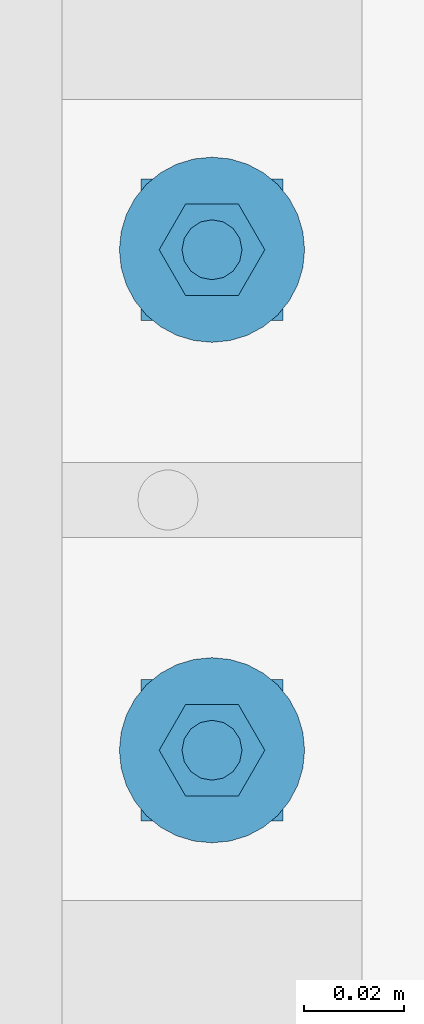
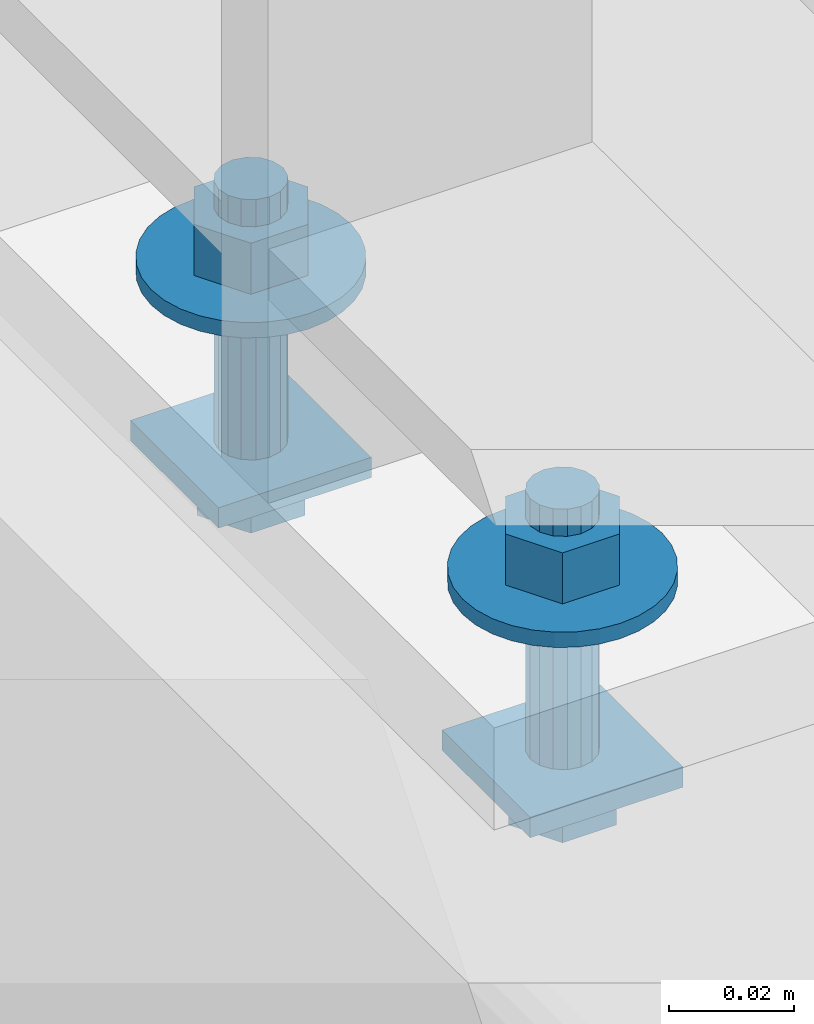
# One storey, part 345 of 821: 1 mechanical fastener.
"""IFC2X3 building model written with IfcOpenShell, lengths in millimetres."""

from ifc_helpers import new_model, entity, si_unit, converted_unit, origin_with_axes, place, context, project, spatial, faceted_brep, element, save


model = new_model("IFC2X3")

# Units and contexts
model_context = context("Model", 3, precision=1e-09, world=origin_with_axes())
ifc_project = project(units=[si_unit("LENGTHUNIT", "METRE", prefix="MILLI"), si_unit("AREAUNIT", "SQUARE_METRE"), si_unit("VOLUMEUNIT", "CUBIC_METRE"), converted_unit("PLANEANGLEUNIT", "DEGREE", entity("IfcPlaneAngleMeasure", 0.01745329), si_unit("PLANEANGLEUNIT", "RADIAN"), dimensions=[0, 0, 0, 0, 0, 0, 0])], contexts=[model_context])

# Site, building, storey
site_placement = place(None, origin_with_axes())
site = spatial("IfcSite", under=ifc_project, at=site_placement, Name="Cnopf'sche Kinderklinik", CompositionType="ELEMENT")
building_placement = place(site_placement, origin_with_axes())
building = spatial("IfcBuilding", under=site, at=building_placement, Name="Struktur 1", CompositionType="ELEMENT")
storey_placement = place(building_placement, origin_with_axes())
storey = spatial("IfcBuildingStorey", under=building, at=storey_placement, Name="Default Storey", CompositionType="ELEMENT", Elevation=0.0)

# Mechanical fastener
mechanical_fastener_placement = place(None, origin_with_axes())
element("IfcMechanicalFastener", 1, at=mechanical_fastener_placement, inside=storey, ObjectType="Bolt#503", NominalDiameter=12.0, NominalLength=55.0, context=model_context, shape_type="Brep", body=[
    faceted_brep([(4670.855538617, 6434.628857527, 17817.317195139), (4670.855538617, 6434.628857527, 17821.317195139), (4670.855538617, 6406.34458628, 17821.317195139), (4670.855538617, 6406.34458628, 17817.317195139), (4642.571267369, 6406.34458628, 17821.317195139), (4642.571267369, 6406.34458628, 17817.317195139), (4642.571267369, 6434.628857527, 17821.317195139), (4642.571267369, 6434.628857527, 17817.317195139)], [[[0, 1, 2, 3]], [[3, 2, 4, 5]], [[5, 4, 6, 7]], [[7, 6, 1, 0]], [[3, 5, 7, 0]], [[2, 1, 6, 4]]]),
    faceted_brep([(4670.855538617, 6334.628857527, 17817.317195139), (4670.855538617, 6334.628857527, 17821.317195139), (4670.855538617, 6306.34458628, 17821.317195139), (4670.855538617, 6306.34458628, 17817.317195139), (4642.571267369, 6306.34458628, 17821.317195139), (4642.571267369, 6306.34458628, 17817.317195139), (4642.571267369, 6334.628857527, 17821.317195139), (4642.571267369, 6334.628857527, 17817.317195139)], [[[0, 1, 2, 3]], [[3, 2, 4, 5]], [[5, 4, 6, 7]], [[7, 6, 1, 0]], [[3, 5, 7, 0]], [[2, 1, 6, 4]]]),
    faceted_brep([(4661.720902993, 6429.159966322, 17809.817195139), (4661.720902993, 6429.159966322, 17817.317195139), (4666.728402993, 6420.486721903, 17817.317195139), (4666.728402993, 6420.486721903, 17809.817195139), (4661.720902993, 6411.813477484, 17817.317195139), (4661.720902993, 6411.813477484, 17809.817195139), (4651.705902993, 6411.813477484, 17817.317195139), (4651.705902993, 6411.813477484, 17809.817195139), (4646.698402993, 6420.486721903, 17817.317195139), (4646.698402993, 6420.486721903, 17809.817195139), (4651.705902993, 6429.159966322, 17817.317195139), (4651.705902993, 6429.159966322, 17809.817195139)], [[[0, 1, 2, 3]], [[3, 2, 4, 5]], [[5, 4, 6, 7]], [[7, 6, 8, 9]], [[9, 8, 10, 11]], [[11, 10, 1, 0]], [[3, 5, 7, 9, 11, 0]], [[2, 1, 10, 8, 6, 4]]]),
    faceted_brep([(4661.720902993, 6329.159966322, 17809.817195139), (4661.720902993, 6329.159966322, 17817.317195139), (4666.728402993, 6320.486721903, 17817.317195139), (4666.728402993, 6320.486721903, 17809.817195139), (4661.720902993, 6311.813477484, 17817.317195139), (4661.720902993, 6311.813477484, 17809.817195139), (4651.705902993, 6311.813477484, 17817.317195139), (4651.705902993, 6311.813477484, 17809.817195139), (4646.698402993, 6320.486721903, 17817.317195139), (4646.698402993, 6320.486721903, 17809.817195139), (4651.705902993, 6329.159966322, 17817.317195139), (4651.705902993, 6329.159966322, 17809.817195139)], [[[0, 1, 2, 3]], [[3, 2, 4, 5]], [[5, 4, 6, 7]], [[7, 6, 8, 9]], [[9, 8, 10, 11]], [[11, 10, 1, 0]], [[3, 5, 7, 9, 11, 0]], [[2, 1, 10, 8, 6, 4]]]),
    faceted_brep([(4656.713402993, 6414.486721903, 17854.0), (4656.713402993, 6414.486721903, 17821.317195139), (4659.009503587, 6414.943444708, 17821.317195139), (4659.009503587, 6414.943444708, 17854.0), (4660.95604368, 6416.244081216, 17821.317195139), (4660.95604368, 6416.244081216, 17854.0), (4662.256680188, 6418.190621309, 17821.317195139), (4662.256680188, 6418.190621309, 17854.0), (4662.713402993, 6420.486721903, 17821.317195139), (4662.713402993, 6420.486721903, 17854.0), (4662.256680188, 6422.782822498, 17821.317195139), (4662.256680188, 6422.782822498, 17854.0), (4660.95604368, 6424.729362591, 17821.317195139), (4660.95604368, 6424.729362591, 17854.0), (4659.009503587, 6426.029999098, 17821.317195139), (4659.009503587, 6426.029999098, 17854.0), (4656.713402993, 6426.486721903, 17821.317195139), (4656.713402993, 6426.486721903, 17854.0), (4654.417302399, 6426.029999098, 17821.317195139), (4654.417302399, 6426.029999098, 17854.0), (4652.470762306, 6424.729362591, 17821.317195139), (4652.470762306, 6424.729362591, 17854.0), (4651.170125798, 6422.782822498, 17821.317195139), (4651.170125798, 6422.782822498, 17854.0), (4650.713402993, 6420.486721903, 17821.317195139), (4650.713402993, 6420.486721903, 17854.0), (4651.170125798, 6418.190621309, 17821.317195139), (4651.170125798, 6418.190621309, 17854.0), (4652.470762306, 6416.244081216, 17821.317195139), (4652.470762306, 6416.244081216, 17854.0), (4654.417302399, 6414.943444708, 17821.317195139), (4654.417302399, 6414.943444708, 17854.0)], [[[0, 1, 2, 3]], [[3, 2, 4, 5]], [[5, 4, 6, 7]], [[7, 6, 8, 9]], [[9, 8, 10, 11]], [[11, 10, 12, 13]], [[13, 12, 14, 15]], [[15, 14, 16, 17]], [[17, 16, 18, 19]], [[19, 18, 20, 21]], [[21, 20, 22, 23]], [[23, 22, 24, 25]], [[25, 24, 26, 27]], [[27, 26, 28, 29]], [[29, 28, 30, 31]], [[31, 30, 1, 0]], [[2, 1, 30, 28, 26, 24, 22, 20, 18, 16, 14, 12, 10, 8, 6, 4]], [[31, 0, 3, 5, 7, 9, 11, 13, 15, 17, 19, 21, 23, 25, 27, 29]]]),
    faceted_brep([(4656.713402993, 6314.486721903, 17854.0), (4656.713402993, 6314.486721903, 17821.317195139), (4659.009503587, 6314.943444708, 17821.317195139), (4659.009503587, 6314.943444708, 17854.0), (4660.95604368, 6316.244081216, 17821.317195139), (4660.95604368, 6316.244081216, 17854.0), (4662.256680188, 6318.190621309, 17821.317195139), (4662.256680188, 6318.190621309, 17854.0), (4662.713402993, 6320.486721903, 17821.317195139), (4662.713402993, 6320.486721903, 17854.0), (4662.256680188, 6322.782822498, 17821.317195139), (4662.256680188, 6322.782822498, 17854.0), (4660.95604368, 6324.729362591, 17821.317195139), (4660.95604368, 6324.729362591, 17854.0), (4659.009503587, 6326.029999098, 17821.317195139), (4659.009503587, 6326.029999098, 17854.0), (4656.713402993, 6326.486721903, 17821.317195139), (4656.713402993, 6326.486721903, 17854.0), (4654.417302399, 6326.029999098, 17821.317195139), (4654.417302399, 6326.029999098, 17854.0), (4652.470762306, 6324.729362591, 17821.317195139), (4652.470762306, 6324.729362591, 17854.0), (4651.170125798, 6322.782822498, 17821.317195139), (4651.170125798, 6322.782822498, 17854.0), (4650.713402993, 6320.486721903, 17821.317195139), (4650.713402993, 6320.486721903, 17854.0), (4651.170125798, 6318.190621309, 17821.317195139), (4651.170125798, 6318.190621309, 17854.0), (4652.470762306, 6316.244081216, 17821.317195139), (4652.470762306, 6316.244081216, 17854.0), (4654.417302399, 6314.943444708, 17821.317195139), (4654.417302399, 6314.943444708, 17854.0)], [[[0, 1, 2, 3]], [[3, 2, 4, 5]], [[5, 4, 6, 7]], [[7, 6, 8, 9]], [[9, 8, 10, 11]], [[11, 10, 12, 13]], [[13, 12, 14, 15]], [[15, 14, 16, 17]], [[17, 16, 18, 19]], [[19, 18, 20, 21]], [[21, 20, 22, 23]], [[23, 22, 24, 25]], [[25, 24, 26, 27]], [[27, 26, 28, 29]], [[29, 28, 30, 31]], [[31, 30, 1, 0]], [[2, 1, 30, 28, 26, 24, 22, 20, 18, 16, 14, 12, 10, 8, 6, 4]], [[31, 0, 3, 5, 7, 9, 11, 13, 15, 17, 19, 21, 23, 25, 27, 29]]]),
    faceted_brep([(4656.713402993, 6401.986721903, 17857.0), (4656.713402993, 6401.986721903, 17854.0), (4660.32257395, 6402.342194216, 17854.0), (4660.32257395, 6402.342194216, 17857.0), (4663.793046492, 6403.394950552, 17854.0), (4663.793046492, 6403.394950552, 17857.0), (4666.991452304, 6405.104534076, 17854.0), (4666.991452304, 6405.104534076, 17857.0), (4669.794878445, 6407.405246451, 17854.0), (4669.794878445, 6407.405246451, 17857.0), (4672.095590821, 6410.208672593, 17854.0), (4672.095590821, 6410.208672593, 17857.0), (4673.805174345, 6413.407078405, 17854.0), (4673.805174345, 6413.407078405, 17857.0), (4674.857930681, 6416.877550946, 17854.0), (4674.857930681, 6416.877550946, 17857.0), (4675.213402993, 6420.486721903, 17854.0), (4675.213402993, 6420.486721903, 17857.0), (4674.857930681, 6424.095892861, 17854.0), (4674.857930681, 6424.095892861, 17857.0), (4673.805174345, 6427.566365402, 17854.0), (4673.805174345, 6427.566365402, 17857.0), (4672.095590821, 6430.764771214, 17854.0), (4672.095590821, 6430.764771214, 17857.0), (4669.794878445, 6433.568197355, 17854.0), (4669.794878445, 6433.568197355, 17857.0), (4666.991452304, 6435.868909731, 17854.0), (4666.991452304, 6435.868909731, 17857.0), (4663.793046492, 6437.578493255, 17854.0), (4663.793046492, 6437.578493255, 17857.0), (4660.32257395, 6438.631249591, 17854.0), (4660.32257395, 6438.631249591, 17857.0), (4656.713402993, 6438.986721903, 17854.0), (4656.713402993, 6438.986721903, 17857.0), (4653.104232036, 6438.631249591, 17854.0), (4653.104232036, 6438.631249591, 17857.0), (4649.633759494, 6437.578493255, 17854.0), (4649.633759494, 6437.578493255, 17857.0), (4646.435353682, 6435.868909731, 17854.0), (4646.435353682, 6435.868909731, 17857.0), (4643.631927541, 6433.568197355, 17854.0), (4643.631927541, 6433.568197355, 17857.0), (4641.331215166, 6430.764771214, 17854.0), (4641.331215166, 6430.764771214, 17857.0), (4639.621631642, 6427.566365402, 17854.0), (4639.621631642, 6427.566365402, 17857.0), (4638.568875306, 6424.095892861, 17854.0), (4638.568875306, 6424.095892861, 17857.0), (4638.213402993, 6420.486721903, 17854.0), (4638.213402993, 6420.486721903, 17857.0), (4638.568875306, 6416.877550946, 17854.0), (4638.568875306, 6416.877550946, 17857.0), (4639.621631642, 6413.407078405, 17854.0), (4639.621631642, 6413.407078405, 17857.0), (4641.331215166, 6410.208672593, 17854.0), (4641.331215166, 6410.208672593, 17857.0), (4643.631927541, 6407.405246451, 17854.0), (4643.631927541, 6407.405246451, 17857.0), (4646.435353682, 6405.104534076, 17854.0), (4646.435353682, 6405.104534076, 17857.0), (4649.633759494, 6403.394950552, 17854.0), (4649.633759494, 6403.394950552, 17857.0), (4653.104232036, 6402.342194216, 17854.0), (4653.104232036, 6402.342194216, 17857.0)], [[[0, 1, 2, 3]], [[3, 2, 4, 5]], [[5, 4, 6, 7]], [[7, 6, 8, 9]], [[9, 8, 10, 11]], [[11, 10, 12, 13]], [[13, 12, 14, 15]], [[15, 14, 16, 17]], [[17, 16, 18, 19]], [[19, 18, 20, 21]], [[21, 20, 22, 23]], [[23, 22, 24, 25]], [[25, 24, 26, 27]], [[27, 26, 28, 29]], [[29, 28, 30, 31]], [[31, 30, 32, 33]], [[33, 32, 34, 35]], [[35, 34, 36, 37]], [[37, 36, 38, 39]], [[39, 38, 40, 41]], [[41, 40, 42, 43]], [[43, 42, 44, 45]], [[45, 44, 46, 47]], [[47, 46, 48, 49]], [[49, 48, 50, 51]], [[51, 50, 52, 53]], [[53, 52, 54, 55]], [[55, 54, 56, 57]], [[57, 56, 58, 59]], [[59, 58, 60, 61]], [[61, 60, 62, 63]], [[63, 62, 1, 0]], [[2, 1, 62, 60, 58, 56, 54, 52, 50, 48, 46, 44, 42, 40, 38, 36, 34, 32, 30, 28, 26, 24, 22, 20, 18, 16, 14, 12, 10, 8, 6, 4]], [[63, 0, 3, 5, 7, 9, 11, 13, 15, 17, 19, 21, 23, 25, 27, 29, 31, 33, 35, 37, 39, 41, 43, 45, 47, 49, 51, 53, 55, 57, 59, 61]]]),
    faceted_brep([(4656.713402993, 6301.986721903, 17857.0), (4656.713402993, 6301.986721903, 17854.0), (4660.32257395, 6302.342194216, 17854.0), (4660.32257395, 6302.342194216, 17857.0), (4663.793046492, 6303.394950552, 17854.0), (4663.793046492, 6303.394950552, 17857.0), (4666.991452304, 6305.104534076, 17854.0), (4666.991452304, 6305.104534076, 17857.0), (4669.794878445, 6307.405246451, 17854.0), (4669.794878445, 6307.405246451, 17857.0), (4672.095590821, 6310.208672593, 17854.0), (4672.095590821, 6310.208672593, 17857.0), (4673.805174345, 6313.407078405, 17854.0), (4673.805174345, 6313.407078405, 17857.0), (4674.857930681, 6316.877550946, 17854.0), (4674.857930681, 6316.877550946, 17857.0), (4675.213402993, 6320.486721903, 17854.0), (4675.213402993, 6320.486721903, 17857.0), (4674.857930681, 6324.095892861, 17854.0), (4674.857930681, 6324.095892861, 17857.0), (4673.805174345, 6327.566365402, 17854.0), (4673.805174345, 6327.566365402, 17857.0), (4672.095590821, 6330.764771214, 17854.0), (4672.095590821, 6330.764771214, 17857.0), (4669.794878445, 6333.568197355, 17854.0), (4669.794878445, 6333.568197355, 17857.0), (4666.991452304, 6335.868909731, 17854.0), (4666.991452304, 6335.868909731, 17857.0), (4663.793046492, 6337.578493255, 17854.0), (4663.793046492, 6337.578493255, 17857.0), (4660.32257395, 6338.631249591, 17854.0), (4660.32257395, 6338.631249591, 17857.0), (4656.713402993, 6338.986721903, 17854.0), (4656.713402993, 6338.986721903, 17857.0), (4653.104232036, 6338.631249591, 17854.0), (4653.104232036, 6338.631249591, 17857.0), (4649.633759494, 6337.578493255, 17854.0), (4649.633759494, 6337.578493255, 17857.0), (4646.435353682, 6335.868909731, 17854.0), (4646.435353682, 6335.868909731, 17857.0), (4643.631927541, 6333.568197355, 17854.0), (4643.631927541, 6333.568197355, 17857.0), (4641.331215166, 6330.764771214, 17854.0), (4641.331215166, 6330.764771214, 17857.0), (4639.621631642, 6327.566365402, 17854.0), (4639.621631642, 6327.566365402, 17857.0), (4638.568875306, 6324.095892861, 17854.0), (4638.568875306, 6324.095892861, 17857.0), (4638.213402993, 6320.486721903, 17854.0), (4638.213402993, 6320.486721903, 17857.0), (4638.568875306, 6316.877550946, 17854.0), (4638.568875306, 6316.877550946, 17857.0), (4639.621631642, 6313.407078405, 17854.0), (4639.621631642, 6313.407078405, 17857.0), (4641.331215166, 6310.208672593, 17854.0), (4641.331215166, 6310.208672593, 17857.0), (4643.631927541, 6307.405246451, 17854.0), (4643.631927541, 6307.405246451, 17857.0), (4646.435353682, 6305.104534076, 17854.0), (4646.435353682, 6305.104534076, 17857.0), (4649.633759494, 6303.394950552, 17854.0), (4649.633759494, 6303.394950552, 17857.0), (4653.104232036, 6302.342194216, 17854.0), (4653.104232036, 6302.342194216, 17857.0)], [[[0, 1, 2, 3]], [[3, 2, 4, 5]], [[5, 4, 6, 7]], [[7, 6, 8, 9]], [[9, 8, 10, 11]], [[11, 10, 12, 13]], [[13, 12, 14, 15]], [[15, 14, 16, 17]], [[17, 16, 18, 19]], [[19, 18, 20, 21]], [[21, 20, 22, 23]], [[23, 22, 24, 25]], [[25, 24, 26, 27]], [[27, 26, 28, 29]], [[29, 28, 30, 31]], [[31, 30, 32, 33]], [[33, 32, 34, 35]], [[35, 34, 36, 37]], [[37, 36, 38, 39]], [[39, 38, 40, 41]], [[41, 40, 42, 43]], [[43, 42, 44, 45]], [[45, 44, 46, 47]], [[47, 46, 48, 49]], [[49, 48, 50, 51]], [[51, 50, 52, 53]], [[53, 52, 54, 55]], [[55, 54, 56, 57]], [[57, 56, 58, 59]], [[59, 58, 60, 61]], [[61, 60, 62, 63]], [[63, 62, 1, 0]], [[2, 1, 62, 60, 58, 56, 54, 52, 50, 48, 46, 44, 42, 40, 38, 36, 34, 32, 30, 28, 26, 24, 22, 20, 18, 16, 14, 12, 10, 8, 6, 4]], [[63, 0, 3, 5, 7, 9, 11, 13, 15, 17, 19, 21, 23, 25, 27, 29, 31, 33, 35, 37, 39, 41, 43, 45, 47, 49, 51, 53, 55, 57, 59, 61]]]),
    faceted_brep([(4661.988402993, 6429.623289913, 17857.0), (4661.988402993, 6429.623289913, 17867.0), (4667.263402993, 6420.486721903, 17867.0), (4667.263402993, 6420.486721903, 17857.0), (4661.988402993, 6411.350153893, 17867.0), (4661.988402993, 6411.350153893, 17857.0), (4651.438402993, 6411.350153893, 17867.0), (4651.438402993, 6411.350153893, 17857.0), (4646.163402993, 6420.486721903, 17867.0), (4646.163402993, 6420.486721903, 17857.0), (4651.438402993, 6429.623289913, 17867.0), (4651.438402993, 6429.623289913, 17857.0)], [[[0, 1, 2, 3]], [[3, 2, 4, 5]], [[5, 4, 6, 7]], [[7, 6, 8, 9]], [[9, 8, 10, 11]], [[11, 10, 1, 0]], [[3, 5, 7, 9, 11, 0]], [[2, 1, 10, 8, 6, 4]]]),
    faceted_brep([(4661.988402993, 6329.623289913, 17857.0), (4661.988402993, 6329.623289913, 17867.0), (4667.263402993, 6320.486721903, 17867.0), (4667.263402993, 6320.486721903, 17857.0), (4661.988402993, 6311.350153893, 17867.0), (4661.988402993, 6311.350153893, 17857.0), (4651.438402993, 6311.350153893, 17867.0), (4651.438402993, 6311.350153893, 17857.0), (4646.163402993, 6320.486721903, 17867.0), (4646.163402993, 6320.486721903, 17857.0), (4651.438402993, 6329.623289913, 17867.0), (4651.438402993, 6329.623289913, 17857.0)], [[[0, 1, 2, 3]], [[3, 2, 4, 5]], [[5, 4, 6, 7]], [[7, 6, 8, 9]], [[9, 8, 10, 11]], [[11, 10, 1, 0]], [[3, 5, 7, 9, 11, 0]], [[2, 1, 10, 8, 6, 4]]]),
    faceted_brep([(4656.713402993, 6414.486721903, 17872.317195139), (4656.713402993, 6414.486721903, 17867.0), (4659.009503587, 6414.943444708, 17867.0), (4659.009503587, 6414.943444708, 17872.317195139), (4660.95604368, 6416.244081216, 17867.0), (4660.95604368, 6416.244081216, 17872.317195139), (4662.256680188, 6418.190621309, 17867.0), (4662.256680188, 6418.190621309, 17872.317195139), (4662.713402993, 6420.486721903, 17867.0), (4662.713402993, 6420.486721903, 17872.317195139), (4662.256680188, 6422.782822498, 17867.0), (4662.256680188, 6422.782822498, 17872.317195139), (4660.95604368, 6424.729362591, 17867.0), (4660.95604368, 6424.729362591, 17872.317195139), (4659.009503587, 6426.029999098, 17867.0), (4659.009503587, 6426.029999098, 17872.317195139), (4656.713402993, 6426.486721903, 17867.0), (4656.713402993, 6426.486721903, 17872.317195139), (4654.417302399, 6426.029999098, 17867.0), (4654.417302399, 6426.029999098, 17872.317195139), (4652.470762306, 6424.729362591, 17867.0), (4652.470762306, 6424.729362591, 17872.317195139), (4651.170125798, 6422.782822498, 17867.0), (4651.170125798, 6422.782822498, 17872.317195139), (4650.713402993, 6420.486721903, 17867.0), (4650.713402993, 6420.486721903, 17872.317195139), (4651.170125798, 6418.190621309, 17867.0), (4651.170125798, 6418.190621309, 17872.317195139), (4652.470762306, 6416.244081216, 17867.0), (4652.470762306, 6416.244081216, 17872.317195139), (4654.417302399, 6414.943444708, 17867.0), (4654.417302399, 6414.943444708, 17872.317195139)], [[[0, 1, 2, 3]], [[3, 2, 4, 5]], [[5, 4, 6, 7]], [[7, 6, 8, 9]], [[9, 8, 10, 11]], [[11, 10, 12, 13]], [[13, 12, 14, 15]], [[15, 14, 16, 17]], [[17, 16, 18, 19]], [[19, 18, 20, 21]], [[21, 20, 22, 23]], [[23, 22, 24, 25]], [[25, 24, 26, 27]], [[27, 26, 28, 29]], [[29, 28, 30, 31]], [[31, 30, 1, 0]], [[2, 1, 30, 28, 26, 24, 22, 20, 18, 16, 14, 12, 10, 8, 6, 4]], [[31, 0, 3, 5, 7, 9, 11, 13, 15, 17, 19, 21, 23, 25, 27, 29]]]),
    faceted_brep([(4656.713402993, 6314.486721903, 17872.317195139), (4656.713402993, 6314.486721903, 17867.0), (4659.009503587, 6314.943444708, 17867.0), (4659.009503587, 6314.943444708, 17872.317195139), (4660.95604368, 6316.244081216, 17867.0), (4660.95604368, 6316.244081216, 17872.317195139), (4662.256680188, 6318.190621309, 17867.0), (4662.256680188, 6318.190621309, 17872.317195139), (4662.713402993, 6320.486721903, 17867.0), (4662.713402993, 6320.486721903, 17872.317195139), (4662.256680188, 6322.782822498, 17867.0), (4662.256680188, 6322.782822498, 17872.317195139), (4660.95604368, 6324.729362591, 17867.0), (4660.95604368, 6324.729362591, 17872.317195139), (4659.009503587, 6326.029999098, 17867.0), (4659.009503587, 6326.029999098, 17872.317195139), (4656.713402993, 6326.486721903, 17867.0), (4656.713402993, 6326.486721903, 17872.317195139), (4654.417302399, 6326.029999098, 17867.0), (4654.417302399, 6326.029999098, 17872.317195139), (4652.470762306, 6324.729362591, 17867.0), (4652.470762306, 6324.729362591, 17872.317195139), (4651.170125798, 6322.782822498, 17867.0), (4651.170125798, 6322.782822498, 17872.317195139), (4650.713402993, 6320.486721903, 17867.0), (4650.713402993, 6320.486721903, 17872.317195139), (4651.170125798, 6318.190621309, 17867.0), (4651.170125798, 6318.190621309, 17872.317195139), (4652.470762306, 6316.244081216, 17867.0), (4652.470762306, 6316.244081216, 17872.317195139), (4654.417302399, 6314.943444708, 17867.0), (4654.417302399, 6314.943444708, 17872.317195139)], [[[0, 1, 2, 3]], [[3, 2, 4, 5]], [[5, 4, 6, 7]], [[7, 6, 8, 9]], [[9, 8, 10, 11]], [[11, 10, 12, 13]], [[13, 12, 14, 15]], [[15, 14, 16, 17]], [[17, 16, 18, 19]], [[19, 18, 20, 21]], [[21, 20, 22, 23]], [[23, 22, 24, 25]], [[25, 24, 26, 27]], [[27, 26, 28, 29]], [[29, 28, 30, 31]], [[31, 30, 1, 0]], [[2, 1, 30, 28, 26, 24, 22, 20, 18, 16, 14, 12, 10, 8, 6, 4]], [[31, 0, 3, 5, 7, 9, 11, 13, 15, 17, 19, 21, 23, 25, 27, 29]]]),
])

save(model, "model.ifc")
